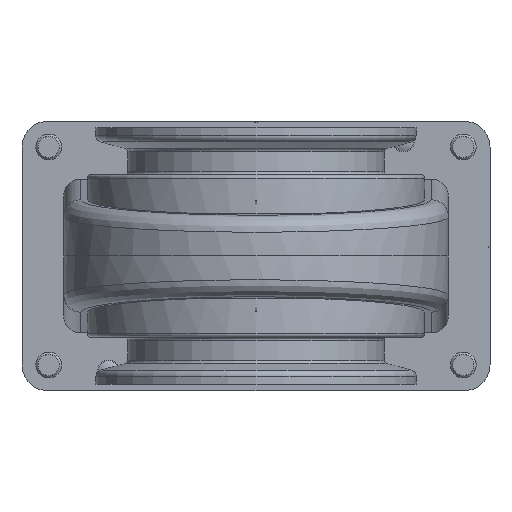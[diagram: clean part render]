
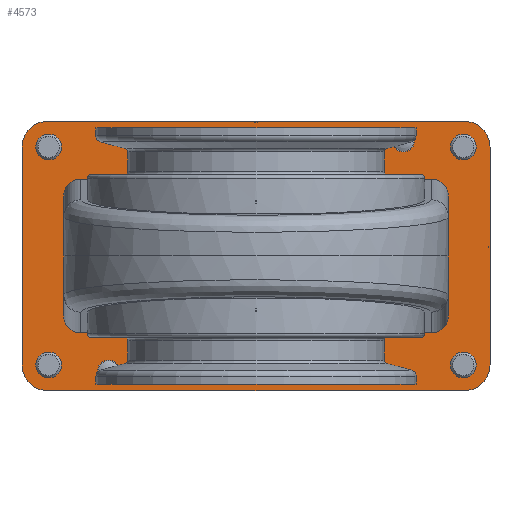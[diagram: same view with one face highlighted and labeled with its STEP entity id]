
A CAD part, front view. The second image highlights one B-rep face of the part: STEP entity #4573.
In plain terms, the highlighted planar face has unit normal (0, -1, 0).
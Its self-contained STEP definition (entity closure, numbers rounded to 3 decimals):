
#4573=ADVANCED_FACE('',(#6062,#6063,#6064,#6065,#6066,#6067,#6068,#6069),
#5461,.T.);
#5461=PLANE('',#20270);
#6062=FACE_BOUND('',#6833,.T.);
#6063=FACE_BOUND('',#6834,.T.);
#6064=FACE_BOUND('',#6835,.T.);
#6065=FACE_BOUND('',#6836,.T.);
#6066=FACE_BOUND('',#6837,.T.);
#6067=FACE_BOUND('',#6838,.T.);
#6068=FACE_BOUND('',#6839,.T.);
#6069=FACE_BOUND('',#6840,.T.);
#6833=EDGE_LOOP('',(#11241));
#6834=EDGE_LOOP('',(#11242));
#6835=EDGE_LOOP('',(#11243));
#6836=EDGE_LOOP('',(#11244));
#6837=EDGE_LOOP('',(#11245));
#6838=EDGE_LOOP('',(#11246));
#6839=EDGE_LOOP('',(#11247,#11248,#11249,#11250,#11251,#11252,#11253,#11254));
#6840=EDGE_LOOP('',(#11255,#11256,#11257,#11258,#11259,#11260,#11261,#11262));
#8054=LINE('',#28218,#9154);
#8061=LINE('',#28404,#9161);
#8075=LINE('',#28433,#9175);
#8101=LINE('',#28518,#9201);
#8106=LINE('',#28530,#9206);
#8110=LINE('',#28539,#9210);
#8114=LINE('',#28554,#9214);
#8119=LINE('',#28568,#9219);
#9154=VECTOR('',#22440,1.);
#9161=VECTOR('',#22449,1.);
#9175=VECTOR('',#22465,1.);
#9201=VECTOR('',#22533,1.);
#9206=VECTOR('',#22544,1.);
#9210=VECTOR('',#22554,1.);
#9214=VECTOR('',#22574,1.);
#9219=VECTOR('',#22591,1.);
#11241=ORIENTED_EDGE('',*,*,#17335,.F.);
#11242=ORIENTED_EDGE('',*,*,#17336,.F.);
#11243=ORIENTED_EDGE('',*,*,#17337,.F.);
#11244=ORIENTED_EDGE('',*,*,#17338,.F.);
#11245=ORIENTED_EDGE('',*,*,#17339,.F.);
#11246=ORIENTED_EDGE('',*,*,#17340,.F.);
#11247=ORIENTED_EDGE('',*,*,#17312,.T.);
#11248=ORIENTED_EDGE('',*,*,#17241,.T.);
#11249=ORIENTED_EDGE('',*,*,#17314,.T.);
#11250=ORIENTED_EDGE('',*,*,#17316,.T.);
#11251=ORIENTED_EDGE('',*,*,#17318,.T.);
#11252=ORIENTED_EDGE('',*,*,#17255,.T.);
#11253=ORIENTED_EDGE('',*,*,#17319,.T.);
#11254=ORIENTED_EDGE('',*,*,#17200,.T.);
#11255=ORIENTED_EDGE('',*,*,#17294,.T.);
#11256=ORIENTED_EDGE('',*,*,#17297,.T.);
#11257=ORIENTED_EDGE('',*,*,#17299,.T.);
#11258=ORIENTED_EDGE('',*,*,#17303,.T.);
#11259=ORIENTED_EDGE('',*,*,#17306,.T.);
#11260=ORIENTED_EDGE('',*,*,#17308,.T.);
#11261=ORIENTED_EDGE('',*,*,#17310,.T.);
#11262=ORIENTED_EDGE('',*,*,#17324,.T.);
#15361=VERTEX_POINT('',#28219);
#15362=VERTEX_POINT('',#28220);
#15402=VERTEX_POINT('',#28403);
#15403=VERTEX_POINT('',#28405);
#15416=VERTEX_POINT('',#28432);
#15417=VERTEX_POINT('',#28434);
#15453=VERTEX_POINT('',#28513);
#15454=VERTEX_POINT('',#28514);
#15455=VERTEX_POINT('',#28519);
#15456=VERTEX_POINT('',#28523);
#15458=VERTEX_POINT('',#28529);
#15460=VERTEX_POINT('',#28536);
#15461=VERTEX_POINT('',#28540);
#15462=VERTEX_POINT('',#28544);
#15463=VERTEX_POINT('',#28551);
#15464=VERTEX_POINT('',#28555);
#15476=VERTEX_POINT('',#28591);
#15477=VERTEX_POINT('',#28593);
#15478=VERTEX_POINT('',#28595);
#15479=VERTEX_POINT('',#28597);
#15480=VERTEX_POINT('',#28599);
#15481=VERTEX_POINT('',#28601);
#17200=EDGE_CURVE('',#15361,#15362,#8054,.T.);
#17241=EDGE_CURVE('',#15403,#15402,#8061,.T.);
#17255=EDGE_CURVE('',#15417,#15416,#8075,.T.);
#17294=EDGE_CURVE('',#15453,#15454,#19300,.T.);
#17297=EDGE_CURVE('',#15454,#15455,#8101,.T.);
#17299=EDGE_CURVE('',#15455,#15456,#19301,.T.);
#17303=EDGE_CURVE('',#15456,#15458,#8106,.T.);
#17306=EDGE_CURVE('',#15458,#15460,#19302,.T.);
#17308=EDGE_CURVE('',#15460,#15461,#8110,.T.);
#17310=EDGE_CURVE('',#15461,#15462,#19303,.T.);
#17312=EDGE_CURVE('',#15362,#15403,#19304,.T.);
#17314=EDGE_CURVE('',#15402,#15463,#19306,.T.);
#17316=EDGE_CURVE('',#15463,#15464,#8114,.T.);
#17318=EDGE_CURVE('',#15464,#15417,#19307,.T.);
#17319=EDGE_CURVE('',#15416,#15361,#19308,.T.);
#17324=EDGE_CURVE('',#15462,#15453,#8119,.T.);
#17335=EDGE_CURVE('',#15476,#15476,#19315,.T.);
#17336=EDGE_CURVE('',#15477,#15477,#19316,.T.);
#17337=EDGE_CURVE('',#15478,#15478,#19317,.T.);
#17338=EDGE_CURVE('',#15479,#15479,#19318,.T.);
#17339=EDGE_CURVE('',#15480,#15480,#19319,.T.);
#17340=EDGE_CURVE('',#15481,#15481,#19320,.T.);
#19300=CIRCLE('',#20235,2.);
#19301=CIRCLE('',#20238,2.);
#19302=CIRCLE('',#20241,2.);
#19303=CIRCLE('',#20244,2.);
#19304=CIRCLE('',#20246,6.);
#19306=CIRCLE('',#20249,6.);
#19307=CIRCLE('',#20252,6.);
#19308=CIRCLE('',#20254,6.);
#19315=CIRCLE('',#20264,2.5);
#19316=CIRCLE('',#20265,2.5);
#19317=CIRCLE('',#20266,2.5);
#19318=CIRCLE('',#20267,2.5);
#19319=CIRCLE('',#20268,2.6);
#19320=CIRCLE('',#20269,2.6);
#20235=AXIS2_PLACEMENT_3D('',#28512,#22527,#22528);
#20238=AXIS2_PLACEMENT_3D('',#28522,#22537,#22538);
#20241=AXIS2_PLACEMENT_3D('',#28535,#22549,#22550);
#20244=AXIS2_PLACEMENT_3D('',#28543,#22558,#22559);
#20246=AXIS2_PLACEMENT_3D('',#28547,#22563,#22564);
#20249=AXIS2_PLACEMENT_3D('',#28550,#22569,#22570);
#20252=AXIS2_PLACEMENT_3D('',#28558,#22578,#22579);
#20254=AXIS2_PLACEMENT_3D('',#28560,#22582,#22583);
#20264=AXIS2_PLACEMENT_3D('',#28590,#22611,#22612);
#20265=AXIS2_PLACEMENT_3D('',#28592,#22613,#22614);
#20266=AXIS2_PLACEMENT_3D('',#28594,#22615,#22616);
#20267=AXIS2_PLACEMENT_3D('',#28596,#22617,#22618);
#20268=AXIS2_PLACEMENT_3D('',#28598,#22619,#22620);
#20269=AXIS2_PLACEMENT_3D('',#28600,#22621,#22622);
#20270=AXIS2_PLACEMENT_3D('',#28602,#22623,#22624);
#22440=DIRECTION('',(0.,0.,1.));
#22449=DIRECTION('',(-1.,0.,0.));
#22465=DIRECTION('',(1.,0.,0.));
#22527=DIRECTION('',(0.,1.,0.));
#22528=DIRECTION('',(-1.,0.,0.));
#22533=DIRECTION('',(0.,0.,1.));
#22537=DIRECTION('',(0.,1.,0.));
#22538=DIRECTION('',(-1.,0.,0.));
#22544=DIRECTION('',(1.,0.,0.));
#22549=DIRECTION('',(0.,1.,0.));
#22550=DIRECTION('',(1.,0.,0.));
#22554=DIRECTION('',(0.,0.,-1.));
#22558=DIRECTION('',(0.,1.,0.));
#22559=DIRECTION('',(1.,0.,0.));
#22563=DIRECTION('',(0.,-1.,0.));
#22564=DIRECTION('',(1.,0.,0.));
#22569=DIRECTION('',(0.,-1.,0.));
#22570=DIRECTION('',(-1.,0.,0.));
#22574=DIRECTION('',(0.,0.,-1.));
#22578=DIRECTION('',(0.,-1.,0.));
#22579=DIRECTION('',(-1.,0.,0.));
#22582=DIRECTION('',(0.,-1.,0.));
#22583=DIRECTION('',(1.,0.,0.));
#22591=DIRECTION('',(-1.,0.,0.));
#22611=DIRECTION('',(0.,-1.,0.));
#22612=DIRECTION('',(0.,0.,-1.));
#22613=DIRECTION('',(0.,-1.,0.));
#22614=DIRECTION('',(0.,0.,-1.));
#22615=DIRECTION('',(0.,-1.,0.));
#22616=DIRECTION('',(0.,0.,-1.));
#22617=DIRECTION('',(0.,-1.,0.));
#22618=DIRECTION('',(0.,0.,-1.));
#22619=DIRECTION('',(0.,-1.,0.));
#22620=DIRECTION('',(0.,0.,-1.));
#22621=DIRECTION('',(0.,-1.,0.));
#22622=DIRECTION('',(0.,0.,-1.));
#22623=DIRECTION('',(0.,-1.,0.));
#22624=DIRECTION('',(-1.,0.,0.));
#28218=CARTESIAN_POINT('',(54.75,125.,-25.5));
#28219=CARTESIAN_POINT('',(54.75,125.,-25.5));
#28220=CARTESIAN_POINT('',(54.75,125.,25.5));
#28403=CARTESIAN_POINT('',(-48.75,125.,31.5));
#28404=CARTESIAN_POINT('',(48.75,125.,31.5));
#28405=CARTESIAN_POINT('',(48.75,125.,31.5));
#28432=CARTESIAN_POINT('',(48.75,125.,-31.5));
#28433=CARTESIAN_POINT('',(-48.75,125.,-31.5));
#28434=CARTESIAN_POINT('',(-48.75,125.,-31.5));
#28512=CARTESIAN_POINT('',(-41.5,125.,-14.5));
#28513=CARTESIAN_POINT('',(-41.5,125.,-16.5));
#28514=CARTESIAN_POINT('',(-43.5,125.,-14.5));
#28518=CARTESIAN_POINT('',(-43.5,125.,-14.5));
#28519=CARTESIAN_POINT('',(-43.5,125.,14.5));
#28522=CARTESIAN_POINT('',(-41.5,125.,14.5));
#28523=CARTESIAN_POINT('',(-41.5,125.,16.5));
#28529=CARTESIAN_POINT('',(41.5,125.,16.5));
#28530=CARTESIAN_POINT('',(-41.5,125.,16.5));
#28535=CARTESIAN_POINT('',(41.5,125.,14.5));
#28536=CARTESIAN_POINT('',(43.5,125.,14.5));
#28539=CARTESIAN_POINT('',(43.5,125.,14.5));
#28540=CARTESIAN_POINT('',(43.5,125.,-14.5));
#28543=CARTESIAN_POINT('',(41.5,125.,-14.5));
#28544=CARTESIAN_POINT('',(41.5,125.,-16.5));
#28547=CARTESIAN_POINT('',(48.75,125.,25.5));
#28550=CARTESIAN_POINT('',(-48.75,125.,25.5));
#28551=CARTESIAN_POINT('',(-54.75,125.,25.5));
#28554=CARTESIAN_POINT('',(-54.75,125.,25.5));
#28555=CARTESIAN_POINT('',(-54.75,125.,-25.5));
#28558=CARTESIAN_POINT('',(-48.75,125.,-25.5));
#28560=CARTESIAN_POINT('',(48.75,125.,-25.5));
#28568=CARTESIAN_POINT('',(41.5,125.,-16.5));
#28590=CARTESIAN_POINT('',(48.5,125.,-25.5));
#28591=CARTESIAN_POINT('',(48.5,125.,-28.));
#28592=CARTESIAN_POINT('',(-48.5,125.,-25.5));
#28593=CARTESIAN_POINT('',(-48.5,125.,-28.));
#28594=CARTESIAN_POINT('',(-48.5,125.,25.5));
#28595=CARTESIAN_POINT('',(-48.5,125.,23.));
#28596=CARTESIAN_POINT('',(48.5,125.,25.5));
#28597=CARTESIAN_POINT('',(48.5,125.,23.));
#28598=CARTESIAN_POINT('',(-34.5,125.,-27.));
#28599=CARTESIAN_POINT('',(-34.5,125.,-29.6));
#28600=CARTESIAN_POINT('',(34.5,125.,27.));
#28601=CARTESIAN_POINT('',(34.5,125.,24.4));
#28602=CARTESIAN_POINT('',(48.75,125.,25.5));
